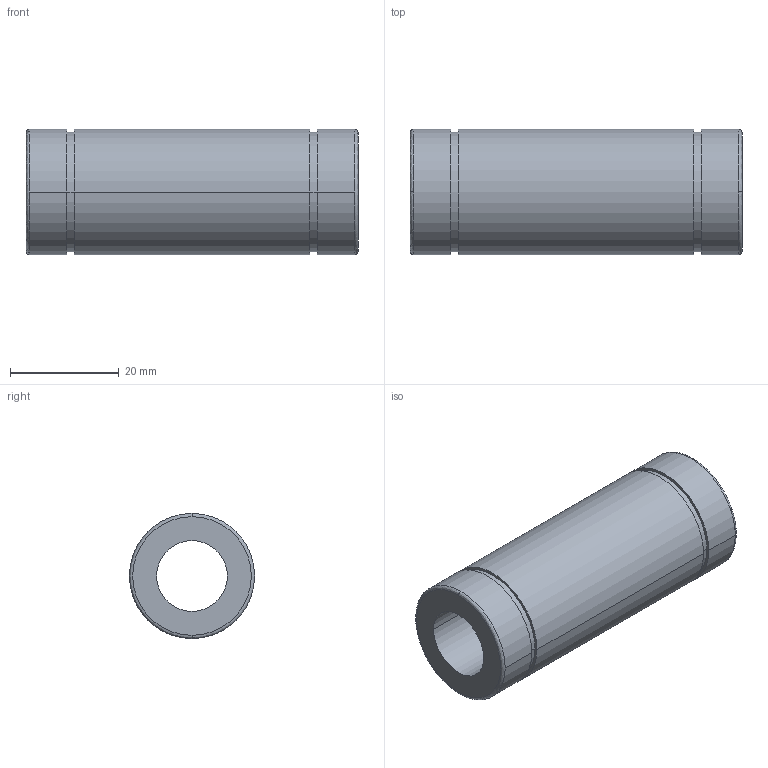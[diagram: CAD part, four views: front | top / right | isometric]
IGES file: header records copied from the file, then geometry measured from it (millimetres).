
Start section: 3D InterOp IGES (Version 21 0 1), Spatial Corp. Copyright (c) 1999-2007.
Global section: file name: NL-13V.igs; native system: Spatial Corp.; preprocessor: 3D InterOp GENERIC/IGES 3.0; author: Noname; organization: Noname; date: 20220311.145710; units: millimetre
Bounding box: 61 x 23 x 23 mm (x, y, z)
Surface area: 7559.8 mm2 (no closed solid volume)
Topology: 0 solids, 0 shells, 22 faces, 100 edges, 100 vertices
Faces by surface type: revolution 16, extrusion 6
